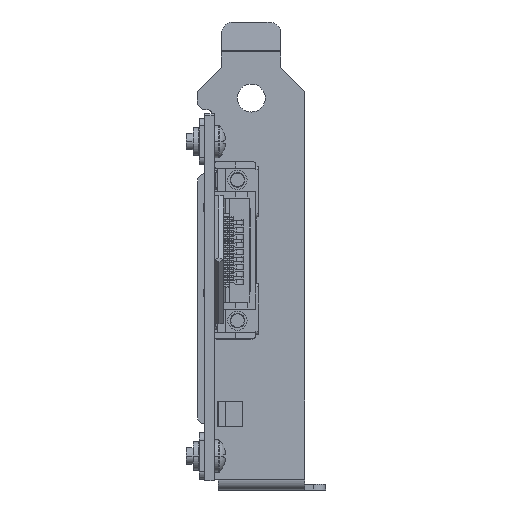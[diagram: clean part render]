
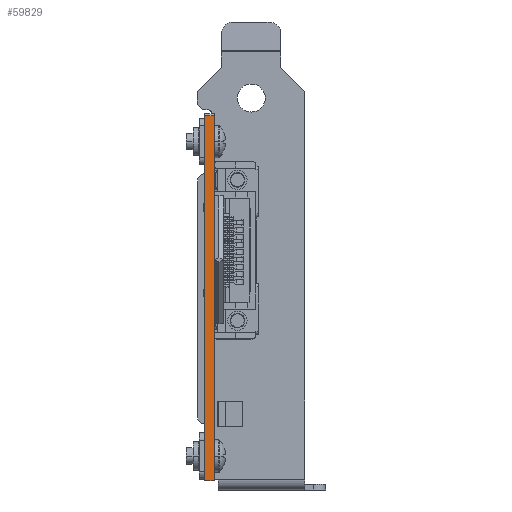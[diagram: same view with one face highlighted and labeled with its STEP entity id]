
A CAD part, front view. The second image highlights one B-rep face of the part: STEP entity #59829.
In plain terms, the highlighted planar face has unit normal (0, -1, 0).
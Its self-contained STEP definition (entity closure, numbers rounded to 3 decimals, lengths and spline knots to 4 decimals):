
#1562=DIRECTION('',(0.,0.,-1.));
#1563=VECTOR('',#1562,2.465);
#1564=CARTESIAN_POINT('',(0.062,-4.426,0.175));
#1565=LINE('',#1564,#1563);
#18371=DIRECTION('',(1.,0.,0.));
#18372=VECTOR('',#18371,0.062);
#18373=CARTESIAN_POINT('',(0.,-4.426,-2.29));
#18374=LINE('',#18373,#18372);
#18491=DIRECTION('',(0.,0.,-1.));
#18492=VECTOR('',#18491,2.465);
#18493=CARTESIAN_POINT('',(0.,-4.426,0.175));
#18494=LINE('',#18493,#18492);
#19565=DIRECTION('',(1.,0.,0.));
#19566=VECTOR('',#19565,0.062);
#19567=CARTESIAN_POINT('',(0.,-4.426,0.175));
#19568=LINE('',#19567,#19566);
#30083=CARTESIAN_POINT('',(0.,-4.426,-2.29));
#30085=VERTEX_POINT('',#30083);
#30099=CARTESIAN_POINT('',(0.062,-4.426,-2.29));
#30101=VERTEX_POINT('',#30099);
#30163=CARTESIAN_POINT('',(0.,-4.426,0.175));
#30164=CARTESIAN_POINT('',(0.062,-4.426,0.175));
#30165=VERTEX_POINT('',#30163);
#30166=VERTEX_POINT('',#30164);
#59818=CARTESIAN_POINT('',(0.,-4.426,0.19));
#59819=DIRECTION('',(0.,-1.,0.));
#59820=DIRECTION('',(0.,0.,-1.));
#59821=AXIS2_PLACEMENT_3D('',#59818,#59819,#59820);
#59822=PLANE('',#59821);
#59823=ORIENTED_EDGE('',*,*,#58293,.F.);
#59824=ORIENTED_EDGE('',*,*,#59810,.T.);
#59825=ORIENTED_EDGE('',*,*,#38241,.T.);
#59826=ORIENTED_EDGE('',*,*,#58217,.F.);
#59827=EDGE_LOOP('',(#59823,#59824,#59825,#59826));
#59828=FACE_OUTER_BOUND('',#59827,.F.);
#59829=ADVANCED_FACE('',(#59828),#59822,.T.);
#38241=EDGE_CURVE('',#30166,#30101,#1565,.T.);
#58217=EDGE_CURVE('',#30085,#30101,#18374,.T.);
#58293=EDGE_CURVE('',#30165,#30085,#18494,.T.);
#59810=EDGE_CURVE('',#30165,#30166,#19568,.T.);
